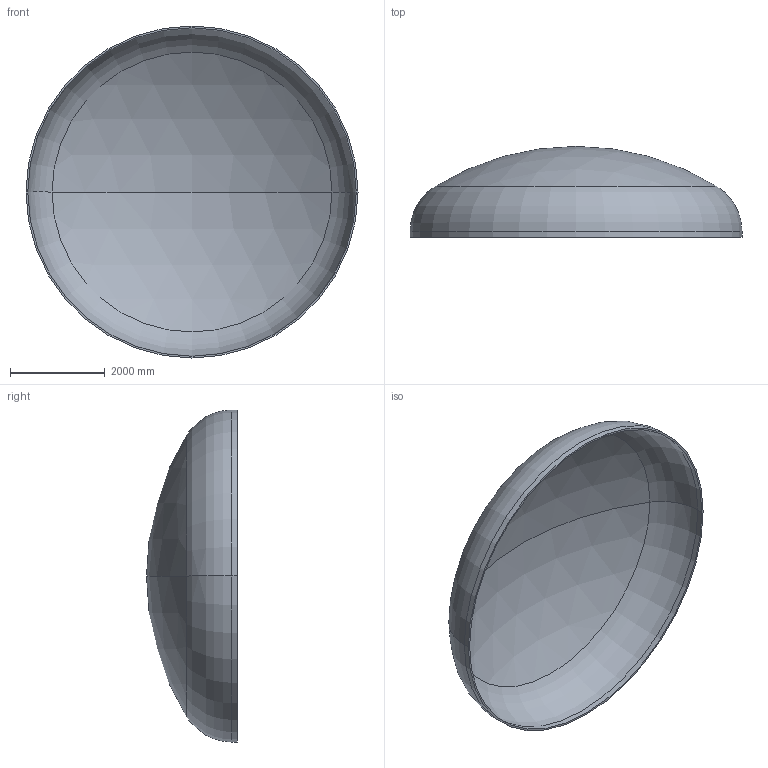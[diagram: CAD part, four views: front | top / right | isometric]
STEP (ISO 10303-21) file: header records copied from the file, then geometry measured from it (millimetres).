
FILE_DESCRIPTION (( 'STEP AP203' ), '1' );
FILE_NAME ('DIN 28013 Korbbogenform_-_Boden DIN 28013 - 7000 x 120 - I - s=38.step', '2016-07-04T10:47:04', ( '' ), ( '' ), 'SwSTEP 2.0', 'SolidWorks 2013', '' );
FILE_SCHEMA (( 'CONFIG_CONTROL_DESIGN' ));
Length unit declared in the file: millimetre
Products named in the file (1): DIN 28013 Korbbogenform_-_Boden DIN 28013 - 7000 x 120 - I - s=38
Bounding box: 7000 x 1916.58 x 7000 mm (x, y, z)
Volume: 2111456381.2 mm3; surface area: 111963391.1 mm2
Topology: 1 solids, 1 shells, 13 faces, 24 edges, 14 vertices
Faces by surface type: torus 4, cylinder 4, sphere 4, plane 1
Entity records: 407 total; most frequent: DIRECTION 72, CARTESIAN_POINT 52, ORIENTED_EDGE 48, AXIS2_PLACEMENT_3D 34, EDGE_CURVE 24, CIRCLE 20, VERTEX_POINT 14, EDGE_LOOP 14
